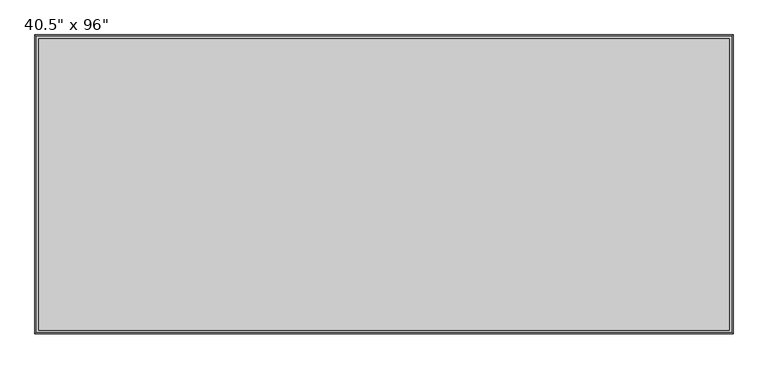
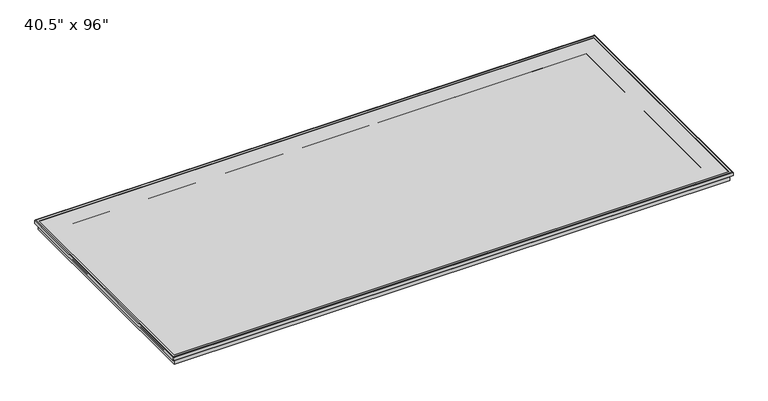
"""IFC4 building model written with IfcOpenShell, lengths in millimetres: proxy geometry."""

import ifcopenshell
import ifcopenshell.guid

model = None  # the IFC model being written
_history = None  # IfcOwnerHistory: only IFC2X3 demands one
_inside = {}  # id of a spatial element -> (the spatial element, [elements in it])
_under = {}  # id of a project, library or spatial element -> (it, [spatial elements below it])
_declared = {}  # id of a project -> (the project, [libraries it declares])
_typed = {}  # id of a type object -> (the type object, [elements of that type])
_made_of = {}  # id of a material, layer set ... -> (it, [elements and type objects made of it])


def new_model(schema):
    """Start an empty IFC model of exactly this schema.

    Asked for "IFC4X3", IfcOpenShell would pick the latest addendum, in which some entities
    have other attributes; the version numbers below select the first issue.
    IFC2X3 requires an IfcOwnerHistory on every rooted entity: one is made here for all.
    """
    global model, _history
    if schema == "IFC4X3":
        model = ifcopenshell.file(schema_version=(4, 3, 0, 0))
    else:
        model = ifcopenshell.file(schema=schema)
    _inside.clear()
    _under.clear()
    _declared.clear()
    _typed.clear()
    _made_of.clear()
    _history = None
    if model.schema == "IFC2X3":
        org = make("IfcOrganization", Name="unknown")
        user = make(
            "IfcPersonAndOrganization",
            ThePerson=make("IfcPerson", FamilyName="unknown"),
            TheOrganization=org,
        )
        app = make(
            "IfcApplication",
            ApplicationDeveloper=org,
            Version="unknown",
            ApplicationFullName="unknown",
            ApplicationIdentifier="unknown",
        )
        _history = make(
            "IfcOwnerHistory",
            OwningUser=user,
            OwningApplication=app,
            ChangeAction="ADDED",
            CreationDate=0,
        )
    return model


def make(cls, **values):
    """One entity of the class cls with the attributes given. An attribute that is None is left unset."""
    return model.create_entity(
        cls, **{name: value for name, value in values.items() if value is not None}
    )


def rooted(cls, **values):
    """An entity with a GlobalId (a new one), such as an element, a storey or a relation."""
    return make(cls, GlobalId=ifcopenshell.guid.new(), OwnerHistory=_history, **values)


def si_unit(unit_type, name, prefix=None):
    """IfcSIUnit, for example si_unit("LENGTHUNIT", "METRE", prefix="MILLI")."""
    return make("IfcSIUnit", UnitType=unit_type, Prefix=prefix, Name=name)


def assignment(units):
    """IfcUnitAssignment: the units of a project."""
    return None if units is None else make("IfcUnitAssignment", Units=units)


def point(xyz):
    """IfcCartesianPoint."""
    return None if xyz is None else make("IfcCartesianPoint", Coordinates=xyz)


def direction(xyz):
    """IfcDirection."""
    return None if xyz is None else make("IfcDirection", DirectionRatios=xyz)


def frame(location, z_axis=None, x_axis=None):
    """IfcAxis2Placement3D, a coordinate frame: its origin and axes. An axis left out is left unset."""
    return make(
        "IfcAxis2Placement3D",
        Location=point(location),
        Axis=direction(z_axis),
        RefDirection=direction(x_axis),
    )


def origin():
    """The frame at (0, 0, 0) with its axes left unset."""
    return frame((0.0, 0.0, 0.0))


def place(relative_to, where):
    """IfcLocalPlacement: puts the frame where relative to a parent placement (None: the world)."""
    return make(
        "IfcLocalPlacement", PlacementRelTo=relative_to, RelativePlacement=where
    )


def context(
    kind, dimensions, precision=None, world=None, true_north=None, identifier=None
):
    """IfcGeometricRepresentationContext, for example the 3D "Model" context."""
    return make(
        "IfcGeometricRepresentationContext",
        ContextIdentifier=identifier,
        ContextType=kind,
        CoordinateSpaceDimension=dimensions,
        Precision=precision,
        WorldCoordinateSystem=world,
        TrueNorth=true_north,
    )


def project(units=None, contexts=None):
    """IfcProject with its units and contexts."""
    return rooted(
        "IfcProject",
        Name="project",
        RepresentationContexts=contexts,
        UnitsInContext=assignment(units),
    )


def spatial(cls, under=None, at=None, **own):
    """A site, building, storey or space (cls), placed at a placement, below another one or the project."""
    s = rooted(cls, ObjectPlacement=at, **own)
    if under is not None:
        _under.setdefault(under.id(), (under, []))[1].append(s)
    return s


def polyline(points):
    """IfcPolyline through the points."""
    return make("IfcPolyline", Points=[point(p) for p in points])


def ellipse_curve(where, semi_axis1, semi_axis2):
    """IfcEllipse in the frame where."""
    return make(
        "IfcEllipse", Position=where, SemiAxis1=semi_axis1, SemiAxis2=semi_axis2
    )


def outline(outer, holes=None, kind="AREA"):
    """IfcArbitraryClosedProfileDef: a profile drawn as a closed curve; with holes, ...WithVoids."""
    if holes is None:
        return make("IfcArbitraryClosedProfileDef", ProfileType=kind, OuterCurve=outer)
    return make(
        "IfcArbitraryProfileDefWithVoids",
        ProfileType=kind,
        OuterCurve=outer,
        InnerCurves=holes,
    )


def extrude(swept, where, along, depth):
    """IfcExtrudedAreaSolid: the profile swept, set in the frame where, extruded along a direction by depth."""
    return make(
        "IfcExtrudedAreaSolid",
        SweptArea=swept,
        Position=where,
        ExtrudedDirection=direction(along),
        Depth=depth,
    )


def shape(context_of_items, identifier, shape_type, items):
    """IfcShapeRepresentation: the items that make up one representation, for example the "Body"."""
    return make(
        "IfcShapeRepresentation",
        ContextOfItems=context_of_items,
        RepresentationIdentifier=identifier,
        RepresentationType=shape_type,
        Items=items,
    )


def source(mapping_origin, context_of_items, identifier, shape_type, items):
    """IfcRepresentationMap: a shape defined once, which mapped items show again and again."""
    return make(
        "IfcRepresentationMap",
        MappingOrigin=mapping_origin,
        MappedRepresentation=shape(context_of_items, identifier, shape_type, items),
    )


def transform(
    local_origin,
    x_axis=None,
    y_axis=None,
    z_axis=None,
    scale=None,
    scale2=None,
    scale3=None,
    uniform=True,
):
    """IfcCartesianTransformationOperator3D, or its non-uniform kind. x_axis, y_axis, z_axis: its Axis1, 2, 3."""
    if uniform:
        return make(
            "IfcCartesianTransformationOperator3D",
            Axis1=direction(x_axis),
            Axis2=direction(y_axis),
            LocalOrigin=point(local_origin),
            Scale=scale,
            Axis3=direction(z_axis),
        )
    return make(
        "IfcCartesianTransformationOperator3DnonUniform",
        Axis1=direction(x_axis),
        Axis2=direction(y_axis),
        LocalOrigin=point(local_origin),
        Scale=scale,
        Axis3=direction(z_axis),
        Scale2=scale2,
        Scale3=scale3,
    )


def mapped(mapping_source, mapping_target):
    """IfcMappedItem: shows the shape of a source again, moved by a transform."""
    return make(
        "IfcMappedItem", MappingSource=mapping_source, MappingTarget=mapping_target
    )


def made_of(thing, what):
    """Note that an element or type object is made of a material, layer set ...; save() writes the relation."""
    if what is not None:
        _made_of.setdefault(what.id(), (what, []))[1].append(thing)
    return thing


def element(
    cls,
    number,
    at=None,
    inside=None,
    cuts=None,
    type_object=None,
    material=None,
    context=None,
    identifier="Body",
    shape_type=None,
    held_by="IfcProductDefinitionShape",
    body=None,
    shapes=None,
    **own,
):
    """One element of the class cls, such as IfcWall. Its Tag is "e" and its number.

    at: its placement. inside: the storey or other place that contains it. cuts: it is an
    opening in that element (IfcRelVoidsElement). A single representation is given by context,
    identifier, shape_type and body (its items); several are given by shapes. held_by: the class
    of the entity that holds the representations. save() writes the other relations.
    """
    e = rooted(cls, Tag="e%d" % number, ObjectPlacement=at, **own)
    if body is not None:
        shapes = [shape(context, identifier, shape_type, body)]
    if shapes is not None:
        e.Representation = make(held_by, Representations=shapes)
    if inside is not None:
        _inside.setdefault(inside.id(), (inside, []))[1].append(e)
    if cuts is not None:
        rooted(
            "IfcRelVoidsElement", RelatingBuildingElement=cuts, RelatedOpeningElement=e
        )
    if type_object is not None:
        _typed.setdefault(type_object.id(), (type_object, []))[1].append(e)
    return made_of(e, material)


def aggregate(whole, parts):
    """IfcRelAggregates: a whole, such as a stair, and the parts it consists of."""
    return rooted("IfcRelAggregates", RelatingObject=whole, RelatedObjects=parts)


def save(model, path):
    """Write the relations noted so far, then the file.

    IfcRelAggregates (storeys below a building ...), IfcRelContainedInSpatialStructure (elements
    in a storey), IfcRelDefinesByType, IfcRelAssociatesMaterial and IfcRelDeclares: one each for
    every whole, place, type object, material and project.
    """
    for whole, parts in _under.values():
        aggregate(whole, parts)
    for where, things in _inside.values():
        rooted(
            "IfcRelContainedInSpatialStructure",
            RelatedElements=things,
            RelatingStructure=where,
        )
    for kind, things in _typed.values():
        rooted("IfcRelDefinesByType", RelatedObjects=things, RelatingType=kind)
    for what, things in _made_of.values():
        rooted("IfcRelAssociatesMaterial", RelatedObjects=things, RelatingMaterial=what)
    for by, libraries in _declared.values():
        rooted("IfcRelDeclares", RelatingContext=by, RelatedDefinitions=libraries)
    model.write(path)


def plane_surface(at):
    """IfcPlane: the flat surface through the origin of the frame at, square to its z axis."""
    return make("IfcPlane", Position=at)


def cylinder_surface(at, radius):
    """IfcCylindricalSurface: all points at the distance radius from the z axis of the frame at."""
    return make("IfcCylindricalSurface", Position=at, Radius=radius)


def revolved_surface(curve, axis_point, axis_direction):
    """IfcSurfaceOfRevolution: the curve turned about the line through axis_point along axis_direction."""
    return make(
        "IfcSurfaceOfRevolution",
        SweptCurve=make("IfcArbitraryOpenProfileDef", ProfileType="CURVE", Curve=curve),
        AxisPosition=make("IfcAxis1Placement", Location=point(axis_point), Axis=direction(axis_direction)),
    )


def advanced_brep(points, edges, surfaces, faces):
    """IfcAdvancedBrep: a solid bounded by faces that lie on surfaces and meet in shared edges.

    An edge is (start, end): straight between two places in points (the first is 0);
    or (start, end, curve); or (start, end, curve, False) where it runs against its curve.
    A face is (place in surfaces, loops), or (place, loops, False) where it looks against
    its surface's normal. A loop lists edges by number (the first is 1), with a minus sign
    where the edge is run from its end to its start. The first loop is the outer one.
    """
    corners = [point(p) for p in points]
    vertices = [make("IfcVertexPoint", VertexGeometry=c) for c in corners]
    made = []
    for start, end, *more in edges:
        made.append(
            make(
                "IfcEdgeCurve",
                EdgeStart=vertices[start],
                EdgeEnd=vertices[end],
                EdgeGeometry=more[0] if more else make("IfcPolyline", Points=[corners[start], corners[end]]),
                SameSense=more[1] if len(more) > 1 else True,
            )
        )
    hull = []
    for where, loops, *sense in faces:
        bounds = []
        for j, loop in enumerate(loops):
            ring = [make("IfcOrientedEdge", EdgeElement=made[abs(k) - 1], Orientation=k > 0) for k in loop]
            bounds.append(
                make(
                    "IfcFaceOuterBound" if j == 0 else "IfcFaceBound",
                    Bound=make("IfcEdgeLoop", EdgeList=ring),
                    Orientation=True,
                )
            )
        hull.append(make("IfcAdvancedFace", Bounds=bounds, FaceSurface=surfaces[where], SameSense=sense[0] if sense else True))
    return make("IfcAdvancedBrep", Outer=make("IfcClosedShell", CfsFaces=hull))


def proxy_b318a2da(model_context):
    return source(origin(), model_context, "Body", "SolidModel", [
        advanced_brep(
        [(-1219.2, -514.35, 38.7617518), (-1219.2, -514.35, 41.275), (1219.2, -514.35, 41.275), (1219.2, -514.35, 38.7617518), (-1141.9, -437.05, 0.0), (-1141.9, -437.05, 38.7617518), (1141.9, -437.05, 38.7617518), (1141.9, -437.05, 0.0), (-1221.9, -517.05, 14.8528553), (-1221.9, -517.05, 0.0), (1221.9, -517.05, 0.0), (1221.9, -517.05, 14.8528553), (-1222.8789908, -518.0289908, 17.8246368), (1222.8789908, -518.0289908, 17.8246368), (-1227.8368179, -522.9868179, 24.532892), (1227.8368179, -522.9868179, 24.532892), (-1229.3080712, -524.4580712, 25.275), (1229.3080712, -524.4580712, 25.275), (-1231.9, -527.05, 38.275), (-1231.9, -527.05, 25.275), (1231.9, -527.05, 25.275), (1231.9, -527.05, 38.275), (-1228.9, -524.05, 41.275), (1228.9, -524.05, 41.275), (1219.2, 514.35, 41.275), (1219.2, 514.35, 38.7617518), (1141.9, 437.05, 38.7617518), (1141.9, 437.05, 0.0), (1221.9, 517.05, 0.0), (1221.9, 517.05, 14.8528553), (1222.8789908, 518.0289908, 17.8246368), (1227.8368179, 522.9868179, 24.532892), (1229.3080712, 524.4580712, 25.275), (1231.9, 527.05, 25.275), (1231.9, 527.05, 38.275), (1228.9, 524.05, 41.275), (-1219.2, 514.35, 41.275), (-1219.2, 514.35, 38.7617518), (-1141.9, 437.05, 38.7617518), (-1141.9, 437.05, 0.0), (-1221.9, 517.05, 0.0), (-1221.9, 517.05, 14.8528553), (-1222.8789908, 518.0289908, 17.8246368), (-1227.8368179, 522.9868179, 24.532892), (-1229.3080712, 524.4580712, 25.275), (-1231.9, 527.05, 25.275), (-1231.9, 527.05, 38.275), (-1228.9, 524.05, 41.275)],
        [
            (0, 1),
            (1, 2),
            (2, 3),
            (3, 0),
            (4, 5),
            (5, 6),
            (6, 7),
            (7, 4),
            (8, 9),
            (9, 10),
            (10, 11),
            (11, 8),
            (12, 8, ellipse_curve(frame((-1226.9, -522.05, 14.8528553), z_axis=(-0.7071067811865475, 0.7071067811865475, 0.0), x_axis=(0.7071067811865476, 0.7071067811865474, 0.0)), 7.0710678, 5.0)),
            (11, 13, ellipse_curve(frame((1226.9, -522.05, 14.8528553), z_axis=(0.7071067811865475, 0.7071067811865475, 0.0), x_axis=(0.7071067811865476, -0.7071067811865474, 0.0)), 7.0710678, 5.0)),
            (13, 12),
            (14, 12),
            (13, 15),
            (15, 14),
            (16, 14, ellipse_curve(frame((-1229.3080712, -524.4580712, 23.4455422), z_axis=(-0.7071067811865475, 0.7071067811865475, 0.0), x_axis=(0.7071067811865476, 0.7071067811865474, 0.0)), 2.587244, 1.8294578)),
            (15, 17, ellipse_curve(frame((1229.3080712, -524.4580712, 23.4455422), z_axis=(0.7071067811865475, 0.7071067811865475, 0.0), x_axis=(0.7071067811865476, -0.7071067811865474, 0.0)), 2.587244, 1.8294578)),
            (17, 16),
            (18, 19),
            (19, 20),
            (20, 21),
            (21, 18),
            (22, 18, ellipse_curve(frame((-1228.9, -524.05, 38.275), z_axis=(0.7071067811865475, -0.7071067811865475, 0.0), x_axis=(-0.7071067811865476, -0.7071067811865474, 0.0)), 4.2426407, 3.0)),
            (21, 23, ellipse_curve(frame((1228.9, -524.05, 38.275), z_axis=(-0.7071067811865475, -0.7071067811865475, 0.0), x_axis=(-0.7071067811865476, 0.7071067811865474, 0.0)), 4.2426407, 3.0)),
            (23, 22),
            (2, 24),
            (24, 25),
            (25, 3),
            (6, 26),
            (26, 27),
            (27, 7),
            (10, 28),
            (28, 29),
            (29, 11),
            (29, 30, ellipse_curve(frame((1226.9, 522.05, 14.8528553), z_axis=(-0.7071067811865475, 0.7071067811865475, 0.0), x_axis=(0.7071067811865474, 0.7071067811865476, 0.0)), 7.0710678, 5.0)),
            (30, 13),
            (30, 31),
            (31, 15),
            (31, 32, ellipse_curve(frame((1229.3080712, 524.4580712, 23.4455422), z_axis=(-0.7071067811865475, 0.7071067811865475, 0.0), x_axis=(0.7071067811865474, 0.7071067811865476, 0.0)), 2.587244, 1.8294578)),
            (32, 17),
            (20, 33),
            (33, 34),
            (34, 21),
            (34, 35, ellipse_curve(frame((1228.9, 524.05, 38.275), z_axis=(0.7071067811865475, -0.7071067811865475, 0.0), x_axis=(-0.7071067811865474, -0.7071067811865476, 0.0)), 4.2426407, 3.0)),
            (35, 23),
            (24, 36),
            (36, 37),
            (37, 25),
            (26, 38),
            (38, 39),
            (39, 27),
            (28, 40),
            (40, 41),
            (41, 29),
            (41, 42, ellipse_curve(frame((-1226.9, 522.05, 14.8528553), z_axis=(-0.7071067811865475, -0.7071067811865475, 0.0), x_axis=(-0.7071067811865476, 0.7071067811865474, 0.0)), 7.0710678, 5.0)),
            (42, 30),
            (42, 43),
            (43, 31),
            (43, 44, ellipse_curve(frame((-1229.3080712, 524.4580712, 23.4455422), z_axis=(-0.7071067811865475, -0.7071067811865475, 0.0), x_axis=(-0.7071067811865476, 0.7071067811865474, 0.0)), 2.587244, 1.8294578)),
            (44, 32),
            (33, 45),
            (45, 46),
            (46, 34),
            (46, 47, ellipse_curve(frame((-1228.9, 524.05, 38.275), z_axis=(0.7071067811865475, 0.7071067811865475, 0.0), x_axis=(0.7071067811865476, -0.7071067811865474, 0.0)), 4.2426407, 3.0)),
            (47, 35),
            (36, 1),
            (0, 37),
            (5, 38),
            (4, 39),
            (9, 40),
            (8, 41),
            (12, 42),
            (14, 43),
            (16, 44),
            (19, 45),
            (18, 46),
            (22, 47),
        ],
        [
            plane_surface(frame((-1219.2, -514.35, 41.275), z_axis=(0.0, 1.0, 0.0), x_axis=(1.0, 0.0, 0.0))),
            plane_surface(frame((-1141.9, -437.05, 38.7617518), z_axis=(0.0, 1.0, 0.0), x_axis=(1.0, 0.0, 0.0))),
            plane_surface(frame((-1221.9, -517.05, 0.0), z_axis=(0.0, -1.0, 0.0), x_axis=(1.0, 0.0, 0.0))),
            revolved_surface(polyline([(1231.89999999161, -517.05, 14.8528553), (-1231.89999999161, -517.05, 14.8528553)]), (-1231.9, -522.05, 14.8528553), (1.0, 0.0, 0.0)),
            plane_surface(frame((-1222.8789908, -518.0289908, 17.8246368), z_axis=(0.0, -0.8042018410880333, -0.5943562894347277), x_axis=(1.0, 0.0, 0.0))),
            revolved_surface(polyline([(1231.1375289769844, -522.6286134, 23.4455422), (-1231.1375289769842, -522.6286134, 23.4455422)]), (-1231.9, -524.4580712, 23.4455422), (1.0, 0.0, 0.0)),
            plane_surface(frame((-1231.9, -527.05, 25.275), z_axis=(0.0, -1.0, 0.0), x_axis=(1.0, 0.0, 0.0))),
            cylinder_surface(frame((-1231.9, -524.05, 38.275), z_axis=(-1.0, 0.0, 0.0), x_axis=(0.0, 1.0, 0.0)), 3.0),
            plane_surface(frame((1219.2, -514.35, 41.275), z_axis=(-1.0, 0.0, 0.0), x_axis=(0.0, 1.0, 0.0))),
            plane_surface(frame((1141.9, -437.05, 38.7617518), z_axis=(-1.0, 0.0, 0.0), x_axis=(0.0, 1.0, 0.0))),
            plane_surface(frame((1221.9, -517.05, 0.0), z_axis=(1.0, 0.0, 0.0), x_axis=(0.0, 1.0, 0.0))),
            revolved_surface(polyline([(1221.9, 527.0499999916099, 14.8528553), (1221.9, -527.0499999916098, 14.8528553)]), (1226.9, -527.05, 14.8528553), (0.0, 1.0, 0.0)),
            plane_surface(frame((1222.8789908, -518.0289908, 17.8246368), z_axis=(0.8042018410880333, 0.0, -0.5943562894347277), x_axis=(0.0, 1.0, 0.0))),
            revolved_surface(polyline([(1227.4786134, 526.287528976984, 23.4455422), (1227.4786134, -526.2875289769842, 23.4455422)]), (1229.3080712, -527.05, 23.4455422), (0.0, 1.0, 0.0)),
            plane_surface(frame((1231.9, -527.05, 25.275), z_axis=(1.0, 0.0, 0.0), x_axis=(0.0, 1.0, 0.0))),
            cylinder_surface(frame((1228.9, -527.05, 38.275), z_axis=(0.0, -1.0, 0.0), x_axis=(-1.0, 0.0, 0.0)), 3.0),
            plane_surface(frame((1219.2, 514.35, 41.275), z_axis=(0.0, -1.0, 0.0), x_axis=(-1.0, 0.0, 0.0))),
            plane_surface(frame((1141.9, 437.05, 38.7617518), z_axis=(0.0, -1.0, 0.0), x_axis=(-1.0, 0.0, 0.0))),
            plane_surface(frame((1221.9, 517.05, 0.0), z_axis=(0.0, 1.0, 0.0), x_axis=(-1.0, 0.0, 0.0))),
            revolved_surface(polyline([(-1231.89999999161, 517.05, 14.8528553), (1231.89999999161, 517.05, 14.8528553)]), (1231.9, 522.05, 14.8528553), (-1.0, 0.0, 0.0)),
            plane_surface(frame((1222.8789908, 518.0289908, 17.8246368), z_axis=(0.0, 0.8042018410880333, -0.5943562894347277), x_axis=(-1.0, 0.0, 0.0))),
            revolved_surface(polyline([(-1231.1375289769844, 522.6286134, 23.4455422), (1231.1375289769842, 522.6286134, 23.4455422)]), (1231.9, 524.4580712, 23.4455422), (-1.0, 0.0, 0.0)),
            plane_surface(frame((1231.9, 527.05, 25.275), z_axis=(0.0, 1.0, 0.0), x_axis=(-1.0, 0.0, 0.0))),
            cylinder_surface(frame((1231.9, 524.05, 38.275), z_axis=(1.0, 0.0, 0.0), x_axis=(0.0, -1.0, 0.0)), 3.0),
            plane_surface(frame((-1219.2, 514.35, 41.275), z_axis=(1.0, 0.0, 0.0), x_axis=(0.0, -1.0, 0.0))),
            plane_surface(frame((-1219.2, 514.35, 38.7617518), z_axis=(0.0, 0.0, 1.0), x_axis=(0.0, -1.0, 0.0))),
            plane_surface(frame((-1141.9, 437.05, 38.7617518), z_axis=(1.0, 0.0, 0.0), x_axis=(0.0, -1.0, 0.0))),
            plane_surface(frame((-1141.9, 437.05, 0.0), z_axis=(0.0, 0.0, -1.0), x_axis=(0.0, -1.0, 0.0))),
            plane_surface(frame((-1221.9, 517.05, 0.0), z_axis=(-1.0, 0.0, 0.0), x_axis=(0.0, -1.0, 0.0))),
            revolved_surface(polyline([(-1221.9, -527.0499999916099, 14.8528553), (-1221.9, 527.0499999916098, 14.8528553)]), (-1226.9, 527.05, 14.8528553), (0.0, -1.0, 0.0)),
            plane_surface(frame((-1222.8789908, 518.0289908, 17.8246368), z_axis=(-0.8042018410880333, 0.0, -0.5943562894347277), x_axis=(0.0, -1.0, 0.0))),
            revolved_surface(polyline([(-1227.4786134, -526.287528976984, 23.4455422), (-1227.4786134, 526.2875289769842, 23.4455422)]), (-1229.3080712, 527.05, 23.4455422), (0.0, -1.0, 0.0)),
            plane_surface(frame((-1229.3080712, 524.4580712, 25.275), z_axis=(0.0, 0.0, -1.0), x_axis=(0.0, -1.0, 0.0))),
            plane_surface(frame((-1231.9, 527.05, 25.275), z_axis=(-1.0, 0.0, 0.0), x_axis=(0.0, -1.0, 0.0))),
            cylinder_surface(frame((-1228.9, 527.05, 38.275), z_axis=(0.0, 1.0, 0.0), x_axis=(1.0, 0.0, 0.0)), 3.0),
            plane_surface(frame((-1228.9, 524.05, 41.275), z_axis=(0.0, 0.0, 1.0), x_axis=(0.0, -1.0, 0.0))),
        ],
        [
            (0, [[1, 2, 3, 4]]),
            (1, [[5, 6, 7, 8]]),
            (2, [[9, 10, 11, 12]]),
            (3, [[13, -12, 14, 15]]),
            (4, [[16, -15, 17, 18]]),
            (5, [[19, -18, 20, 21]]),
            (6, [[22, 23, 24, 25]]),
            (7, [[26, -25, 27, 28]]),
            (8, [[-3, 29, 30, 31]]),
            (9, [[-7, 32, 33, 34]]),
            (10, [[-11, 35, 36, 37]]),
            (11, [[-14, -37, 38, 39]]),
            (12, [[-17, -39, 40, 41]]),
            (13, [[-20, -41, 42, 43]]),
            (14, [[-24, 44, 45, 46]]),
            (15, [[-27, -46, 47, 48]]),
            (16, [[-30, 49, 50, 51]]),
            (17, [[-33, 52, 53, 54]]),
            (18, [[-36, 55, 56, 57]]),
            (19, [[-38, -57, 58, 59]]),
            (20, [[-40, -59, 60, 61]]),
            (21, [[-42, -61, 62, 63]]),
            (22, [[-45, 64, 65, 66]]),
            (23, [[-47, -66, 67, 68]]),
            (24, [[-50, 69, -1, 70]]),
            (25, [[-31, -51, -70, -4], [71, -52, -32, -6]]),
            (26, [[-53, -71, -5, 72]]),
            (27, [[73, -55, -35, -10], [-34, -54, -72, -8]]),
            (28, [[-56, -73, -9, 74]]),
            (29, [[-58, -74, -13, 75]]),
            (30, [[-60, -75, -16, 76]]),
            (31, [[-62, -76, -19, 77]]),
            (32, [[78, -64, -44, -23], [-43, -63, -77, -21]]),
            (33, [[-65, -78, -22, 79]]),
            (34, [[-67, -79, -26, 80]]),
            (35, [[-48, -68, -80, -28], [-69, -49, -29, -2]]),
        ],
    ),
        extrude(outline(polyline([(1219.2, 514.35), (1219.2, -514.35), (-1219.2, -514.35), (-1219.2, 514.35), (1219.2, 514.35)])), frame((0.0, 0.0, 38.7617518), z_axis=(0.0, 0.0, 1.0), x_axis=(1.0, 0.0, 0.0)), (0.0, 0.0, 1.0), 0.5132482),
    ])


if __name__ == "__main__":
    model = new_model("IFC4")
    model_context = context("Model", 3, world=origin())
    ifc_project = project(units=[si_unit("LENGTHUNIT", "METRE", prefix="MILLI")], contexts=[model_context])
    site = spatial("IfcSite", under=ifc_project)
    building = spatial("IfcBuilding", under=site)
    placement = place(None, origin())
    proxy_shape = proxy_b318a2da(model_context)
    element("IfcBuildingElementProxy", 1, Name="Electronics-Visual-Projectors_Da-Lite_Specialty-Equipment_Parallax-Thin : 40.5\" x 96\"", ObjectType="Electronics-Visual-Projectors_Da-Lite_Specialty-Equipment_Parallax-Thin : 40.5\" x 96\"", at=placement, inside=building, context=model_context, shape_type="MappedRepresentation", body=[
        mapped(proxy_shape, transform((0.0, 0.0, 0.0), x_axis=(1.0, 0.0, 0.0), y_axis=(0.0, 1.0, 0.0), z_axis=(0.0, 0.0, 1.0))),
    ])
    save(model, "model.ifc")
